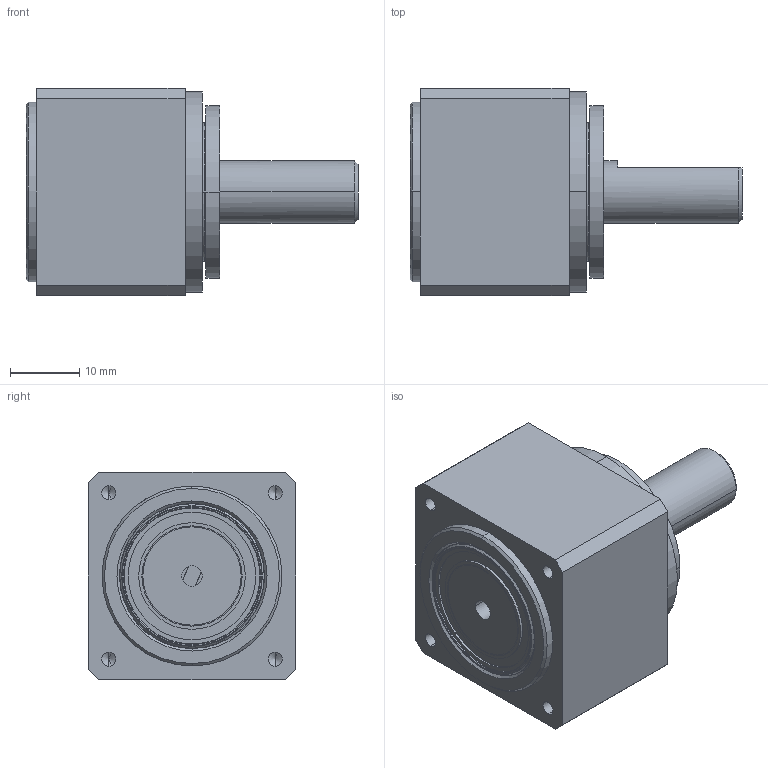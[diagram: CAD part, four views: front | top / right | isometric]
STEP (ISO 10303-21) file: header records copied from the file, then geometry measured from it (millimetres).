
FILE_DESCRIPTION (( 'STEP AP214' ), '1' );
FILE_NAME ('CSF-08-xxx-1U-C.STEP', '2022-05-08T08:14:14', ( 'PC' ), ( 'Microsoft' ), 'SwSTEP 2.0', 'SolidWorks 2016', '' );
FILE_SCHEMA (( 'AUTOMOTIVE_DESIGN' ));
Length unit declared in the file: millimetre
Products named in the file (15): 躇猾蚐猾20x26x4_蕼偞; CSF-08蝠脫粣創_蕼偞; CSF-08-交叉轴承内圈; CSF-08-交叉轴承外圈; CSF-08-1U-01_蕼偞; CSF-08-xxx-1U-C; CSF-08-1U-D-疏楷汜ん_蕼偞; 柔性轴承19.63x14.22x3.3x3.1_預設; CSF-08-1U-D-05_蕼偞; CSF-08-1U-D-06_蕼偞; 十字槽沉头螺钉  M3×6_預設; 种隊 2.5x5_蕼偞; CSF-08-1U-04_蕼偞; CSF-08-1U-03_蕼偞; CSF-08-1U-02_蕼偞
Assembly tree (18 placements, depth 3):
  CSF-08-xxx-1U-C
    CSF-08-1U-01_蕼偞
    CSF-08蝠脫粣創_蕼偞
      CSF-08-交叉轴承外圈
      CSF-08-交叉轴承内圈
    躇猾蚐猾20x26x4_蕼偞
    CSF-08-1U-02_蕼偞
    CSF-08-1U-03_蕼偞
    CSF-08-1U-04_蕼偞
    种隊 2.5x5_蕼偞  x2
    十字槽沉头螺钉  M3×6_預設  x4
    CSF-08-1U-D-06_蕼偞
    CSF-08-1U-D-疏楷汜ん_蕼偞
      CSF-08-1U-D-05_蕼偞
      柔性轴承19.63x14.22x3.3x3.1_預設
Bounding box: 48 x 30 x 30 mm (x, y, z)
Volume: 20572.2 mm3; surface area: 18931.1 mm2
Topology: 16 solids, 16 shells, 536 faces, 1157 edges, 662 vertices
Faces by surface type: plane 203, cylinder 170, cone 133, torus 22, bspline 8
Entity records: 11956 total; most frequent: DIRECTION 2056, CARTESIAN_POINT 2015, ORIENTED_EDGE 1674, AXIS2_PLACEMENT_3D 838, EDGE_CURVE 837, VERTEX_POINT 507, EDGE_LOOP 462, CIRCLE 433
